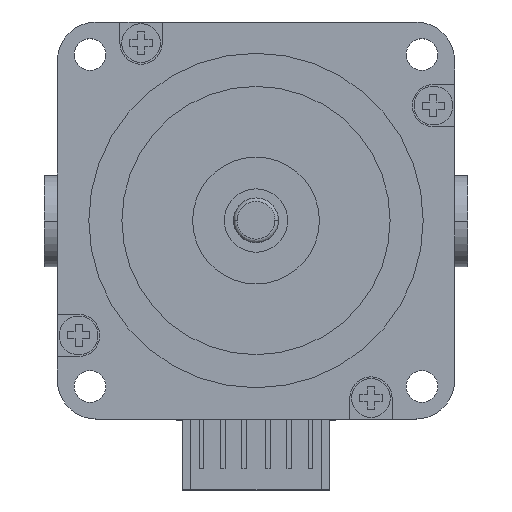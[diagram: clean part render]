
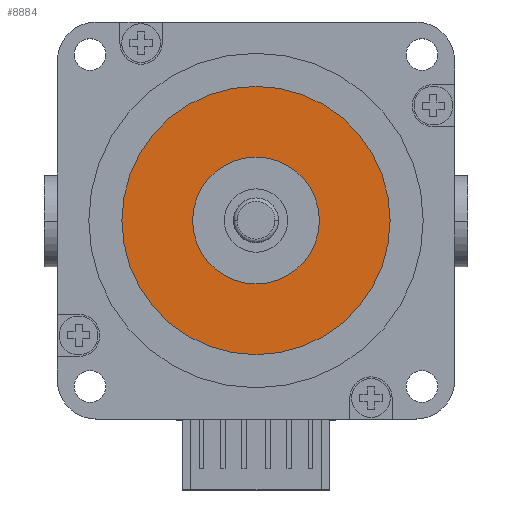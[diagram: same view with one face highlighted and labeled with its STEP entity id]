
A CAD part, top view. The second image highlights one B-rep face of the part: STEP entity #8884.
In plain terms, the highlighted planar face has unit normal (0, 0, 1).
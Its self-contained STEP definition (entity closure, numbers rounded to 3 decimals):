
#341 = VERTEX_POINT ( 'NONE', #8164 ) ;
#351 = VERTEX_POINT ( 'NONE', #4702 ) ;
#368 = DIRECTION ( 'NONE',  ( -1., 0., 0. ) ) ;
#436 = AXIS2_PLACEMENT_3D ( 'NONE', #6620, #7999, #3222 ) ;
#576 = ORIENTED_EDGE ( 'NONE', *, *, #4707, .T. ) ;
#958 = CIRCLE ( 'NONE', #7175, 9. ) ;
#989 = FACE_OUTER_BOUND ( 'NONE', #7547, .T. ) ;
#1073 = CARTESIAN_POINT ( 'NONE',  ( 19.05, 0., 1.6 ) ) ;
#1087 = PLANE ( 'NONE',  #436 ) ;
#1143 = DIRECTION ( 'NONE',  ( -1., 0., 0. ) ) ;
#1284 = CIRCLE ( 'NONE', #7636, 9. ) ;
#1381 = EDGE_CURVE ( 'NONE', #6084, #341, #2928, .T. ) ;
#1735 = FACE_BOUND ( 'NONE', #6213, .T. ) ;
#2237 = ORIENTED_EDGE ( 'NONE', *, *, #3381, .F. ) ;
#2470 = CARTESIAN_POINT ( 'NONE',  ( 9., 0., 1.6 ) ) ;
#2928 = CIRCLE ( 'NONE', #3885, 19.05 ) ;
#3185 = DIRECTION ( 'NONE',  ( 0., 0., 1. ) ) ;
#3222 = DIRECTION ( 'NONE',  ( -1., 0., 0. ) ) ;
#3340 = EDGE_CURVE ( 'NONE', #351, #6266, #958, .T. ) ;
#3381 = EDGE_CURVE ( 'NONE', #6266, #351, #1284, .T. ) ;
#3885 = AXIS2_PLACEMENT_3D ( 'NONE', #6241, #8309, #6913 ) ;
#4702 = CARTESIAN_POINT ( 'NONE',  ( -9., 0., 1.6 ) ) ;
#4707 = EDGE_CURVE ( 'NONE', #341, #6084, #6758, .T. ) ;
#5209 = CARTESIAN_POINT ( 'NONE',  ( 0., 0., 1.6 ) ) ;
#6084 = VERTEX_POINT ( 'NONE', #1073 ) ;
#6213 = EDGE_LOOP ( 'NONE', ( #6888, #2237 ) ) ;
#6241 = CARTESIAN_POINT ( 'NONE',  ( 0., 0., 1.6 ) ) ;
#6244 = DIRECTION ( 'NONE',  ( 0., 0., 1. ) ) ;
#6266 = VERTEX_POINT ( 'NONE', #2470 ) ;
#6430 = AXIS2_PLACEMENT_3D ( 'NONE', #8389, #6244, #7679 ) ;
#6612 = CARTESIAN_POINT ( 'NONE',  ( 0., 0., 1.6 ) ) ;
#6620 = CARTESIAN_POINT ( 'NONE',  ( 0., 0., 1.6 ) ) ;
#6758 = CIRCLE ( 'NONE', #6430, 19.05 ) ;
#6809 = ORIENTED_EDGE ( 'NONE', *, *, #1381, .T. ) ;
#6888 = ORIENTED_EDGE ( 'NONE', *, *, #3340, .F. ) ;
#6913 = DIRECTION ( 'NONE',  ( 1., 0., 0. ) ) ;
#7175 = AXIS2_PLACEMENT_3D ( 'NONE', #6612, #3185, #1143 ) ;
#7241 = DIRECTION ( 'NONE',  ( 0., 0., 1. ) ) ;
#7547 = EDGE_LOOP ( 'NONE', ( #6809, #576 ) ) ;
#7636 = AXIS2_PLACEMENT_3D ( 'NONE', #5209, #7241, #368 ) ;
#7679 = DIRECTION ( 'NONE',  ( 1., 0., 0. ) ) ;
#7999 = DIRECTION ( 'NONE',  ( 0., 0., -1. ) ) ;
#8164 = CARTESIAN_POINT ( 'NONE',  ( -19.05, 0., 1.6 ) ) ;
#8309 = DIRECTION ( 'NONE',  ( 0., 0., 1. ) ) ;
#8389 = CARTESIAN_POINT ( 'NONE',  ( 0., 0., 1.6 ) ) ;
#8884 = ADVANCED_FACE ( 'NONE', ( #1735, #989 ), #1087, .F. ) ;
